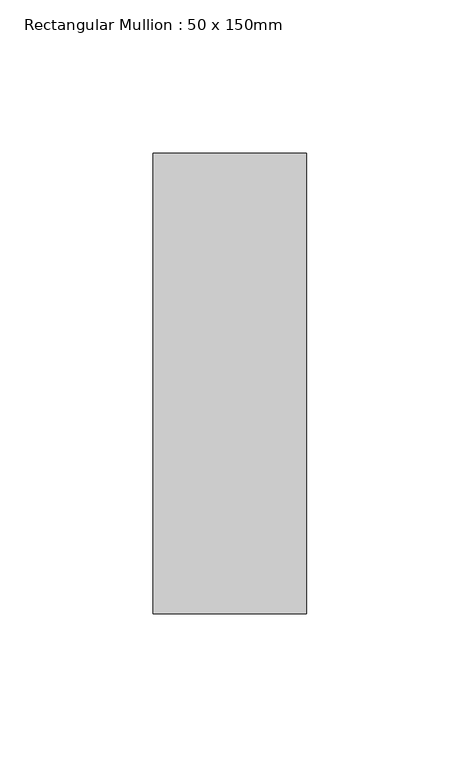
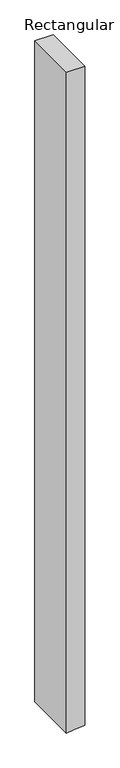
"""IFC4 building model written with IfcOpenShell, lengths in millimetres: member geometry, Rectangular Mullion : 50 x 150mm."""

from ifc_helpers import new_model, si_unit, frame, origin, place, context, project, spatial, polyline, outline, extrude, source, transform, mapped, element, save


def rectangular_mullion_50_x_150mm_130523d3(model_context):
    return source(origin(), model_context, "Body", "SweptSolid", [
        extrude(outline(polyline([(0.0, 25.0), (0.0, -25.0), (-1919.6697753, -25.0), (-1917.6590082, -5.0022633), (-1914.6422886, 25.0), (0.0, 25.0)])), frame((0.0, -75.0, 0.0), z_axis=(0.0, 1.0, 0.0), x_axis=(0.0, 0.0, 1.0)), (0.0, 0.0, 1.0), 150.0),
    ])


if __name__ == "__main__":
    model = new_model("IFC4")
    model_context = context("Model", 3, world=origin())
    ifc_project = project(units=[si_unit("LENGTHUNIT", "METRE", prefix="MILLI")], contexts=[model_context])
    site = spatial("IfcSite", under=ifc_project)
    building = spatial("IfcBuilding", under=site)
    placement = place(None, origin())
    rectangular_mullion_50_x_150mm_shape = rectangular_mullion_50_x_150mm_130523d3(model_context)
    element("IfcMember", 1, ObjectType="Rectangular Mullion : 50 x 150mm", at=placement, inside=building, context=model_context, shape_type="MappedRepresentation", body=[
        mapped(rectangular_mullion_50_x_150mm_shape, transform((0.0, 0.0, 0.0), x_axis=(1.0, 0.0, 0.0), y_axis=(0.0, 1.0, 0.0), z_axis=(0.0, 0.0, 1.0))),
    ])
    save(model, "model.ifc")
